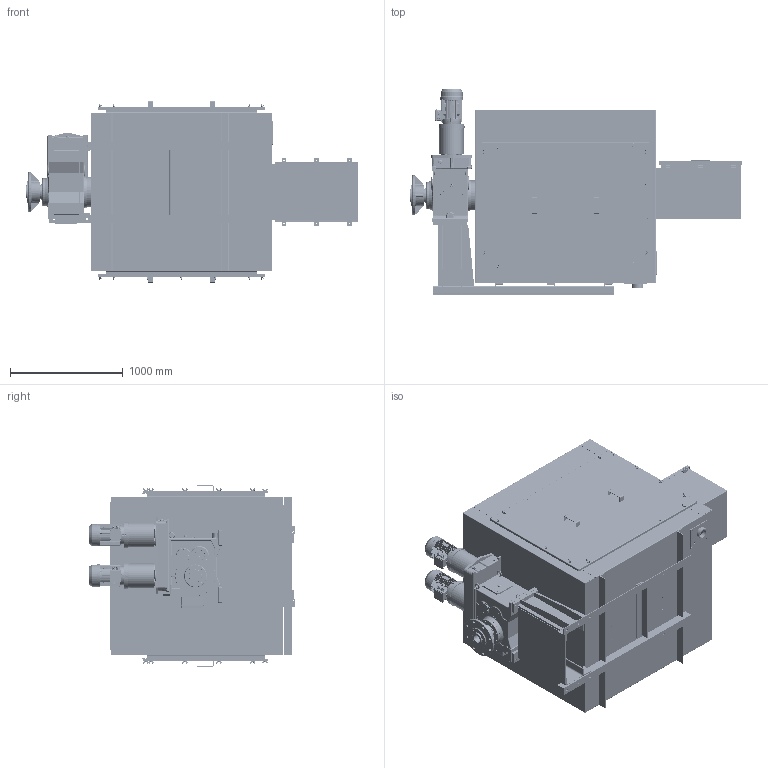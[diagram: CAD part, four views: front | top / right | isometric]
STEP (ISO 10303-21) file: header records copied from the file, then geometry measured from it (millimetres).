
FILE_DESCRIPTION(/* description */ (''),/* implementation_level */ '2;1');
FILE_NAME(/* name */ 'K:\NEMANJA\CABLE REEL\CABLE REEL DA\0700-6\07006002 DAPR-MCGBSR\STEP\75937 .stp',/* time_stamp */ '2017-03-16T12:23:03+01:00',/* author */ ('milman01'),/* organization */ ('Hillmar Industries Ltd.'),/* preprocessor_version */ 'ST-DEVELOPER v16.1',/* originating_system */ 'Autodesk Inventor 2016',/* authorisation */ '');
FILE_SCHEMA (('AUTOMOTIVE_DESIGN { 1 0 10303 214 3 1 1 }'));
Products named in the file (1): 75937 
Bounding box: 2940.69 x 1819.55 x 1606.6 mm (x, y, z)
Volume: 137666787.8 mm3; surface area: 48522876.1 mm2
Topology: 22 solids, 22 shells, 10464 faces, 28578 edges, 18418 vertices
Faces by surface type: plane 7018, cylinder 1965, cone 668, bspline 529, torus 253, sphere 31
Full cylindrical faces by diameter (mm): 3 x8, 8 x26, 8.376 x43, 8.731 x1, 9 x20, 10 x22, 10.106 x85, 11 x20, 12 x19, 12.5 x6, 13 x64, 13.5 x8, 14 x20, 14.5 x8, 15 x8, 17.294 x4, 18 x4, 18.256 x3, 20 x18, 20.5 x4, 22 x24, 22.225 x1, 22.631 x1, 23.812 x1, 24 x8, 24.917 x1, 24.918 x2, 25 x3, 25.6 x4, 28 x2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
Entity records: 349315 total; most frequent: CARTESIAN_POINT 81707, ORIENTED_EDGE 54564, DIRECTION 50218, EDGE_CURVE 27254, VERTEX_POINT 17999, LINE 17636, VECTOR 17636, AXIS2_PLACEMENT_3D 16291
